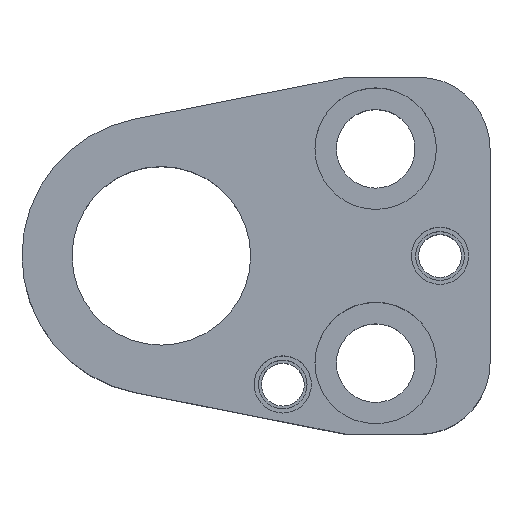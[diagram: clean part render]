
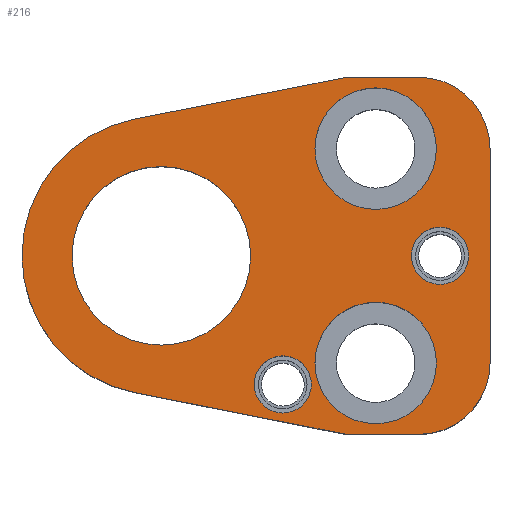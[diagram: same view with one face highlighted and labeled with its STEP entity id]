
A CAD part, top view. The second image highlights one B-rep face of the part: STEP entity #216.
In plain terms, the highlighted planar face has unit normal (0, 0, 1).
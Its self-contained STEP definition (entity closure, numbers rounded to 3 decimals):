
#104=FACE_BOUND('',#309,.T.);
#105=FACE_BOUND('',#310,.T.);
#106=FACE_BOUND('',#311,.T.);
#107=FACE_BOUND('',#312,.T.);
#108=FACE_BOUND('',#313,.T.);
#109=FACE_BOUND('',#314,.T.);
#148=CIRCLE('',#832,10.);
#150=CIRCLE('',#836,10.);
#160=CIRCLE('',#852,8.5);
#162=CIRCLE('',#855,8.5);
#164=CIRCLE('',#859,8.5);
#166=CIRCLE('',#862,8.5);
#168=CIRCLE('',#866,19.5);
#169=CIRCLE('',#867,4.);
#170=CIRCLE('',#868,4.);
#171=CIRCLE('',#869,4.);
#172=CIRCLE('',#870,4.);
#173=CIRCLE('',#871,12.5);
#174=CIRCLE('',#872,12.5);
#216=ADVANCED_FACE('',(#104,#105,#106,#107,#108,#109),#248,.T.);
#248=PLANE('',#873);
#309=EDGE_LOOP('',(#409,#410,#411,#412,#413,#414,#415,#416));
#310=EDGE_LOOP('',(#417,#418));
#311=EDGE_LOOP('',(#419,#420));
#312=EDGE_LOOP('',(#421,#422));
#313=EDGE_LOOP('',(#423,#424));
#314=EDGE_LOOP('',(#425,#426));
#409=ORIENTED_EDGE('',*,*,#666,.T.);
#410=ORIENTED_EDGE('',*,*,#627,.T.);
#411=ORIENTED_EDGE('',*,*,#631,.T.);
#412=ORIENTED_EDGE('',*,*,#634,.T.);
#413=ORIENTED_EDGE('',*,*,#637,.T.);
#414=ORIENTED_EDGE('',*,*,#640,.T.);
#415=ORIENTED_EDGE('',*,*,#667,.T.);
#416=ORIENTED_EDGE('',*,*,#668,.T.);
#417=ORIENTED_EDGE('',*,*,#669,.F.);
#418=ORIENTED_EDGE('',*,*,#670,.F.);
#419=ORIENTED_EDGE('',*,*,#671,.F.);
#420=ORIENTED_EDGE('',*,*,#672,.F.);
#421=ORIENTED_EDGE('',*,*,#664,.F.);
#422=ORIENTED_EDGE('',*,*,#660,.F.);
#423=ORIENTED_EDGE('',*,*,#658,.F.);
#424=ORIENTED_EDGE('',*,*,#654,.F.);
#425=ORIENTED_EDGE('',*,*,#673,.T.);
#426=ORIENTED_EDGE('',*,*,#674,.T.);
#558=VERTEX_POINT('',#1171);
#559=VERTEX_POINT('',#1173);
#562=VERTEX_POINT('',#1180);
#564=VERTEX_POINT('',#1186);
#566=VERTEX_POINT('',#1192);
#568=VERTEX_POINT('',#1198);
#577=VERTEX_POINT('',#1227);
#578=VERTEX_POINT('',#1228);
#581=VERTEX_POINT('',#1240);
#582=VERTEX_POINT('',#1241);
#585=VERTEX_POINT('',#1253);
#586=VERTEX_POINT('',#1255);
#587=VERTEX_POINT('',#1258);
#588=VERTEX_POINT('',#1259);
#589=VERTEX_POINT('',#1262);
#590=VERTEX_POINT('',#1263);
#591=VERTEX_POINT('',#1266);
#592=VERTEX_POINT('',#1267);
#627=EDGE_CURVE('',#559,#558,#731,.T.);
#631=EDGE_CURVE('',#558,#562,#148,.T.);
#634=EDGE_CURVE('',#562,#564,#736,.T.);
#637=EDGE_CURVE('',#564,#566,#150,.T.);
#640=EDGE_CURVE('',#566,#568,#740,.T.);
#654=EDGE_CURVE('',#577,#578,#160,.T.);
#658=EDGE_CURVE('',#578,#577,#162,.T.);
#660=EDGE_CURVE('',#581,#582,#164,.T.);
#664=EDGE_CURVE('',#582,#581,#166,.T.);
#666=EDGE_CURVE('',#585,#559,#750,.T.);
#667=EDGE_CURVE('',#568,#586,#751,.T.);
#668=EDGE_CURVE('',#586,#585,#168,.T.);
#669=EDGE_CURVE('',#587,#588,#169,.T.);
#670=EDGE_CURVE('',#588,#587,#170,.T.);
#671=EDGE_CURVE('',#589,#590,#171,.T.);
#672=EDGE_CURVE('',#590,#589,#172,.T.);
#673=EDGE_CURVE('',#591,#592,#173,.T.);
#674=EDGE_CURVE('',#592,#591,#174,.T.);
#731=LINE('',#1172,#781);
#736=LINE('',#1187,#786);
#740=LINE('',#1199,#790);
#750=LINE('',#1252,#800);
#751=LINE('',#1254,#801);
#781=VECTOR('',#929,1.);
#786=VECTOR('',#942,1.);
#790=VECTOR('',#954,1.);
#800=VECTOR('',#1018,1.);
#801=VECTOR('',#1019,1.);
#832=AXIS2_PLACEMENT_3D('',#1181,#935,#936);
#836=AXIS2_PLACEMENT_3D('',#1193,#947,#948);
#852=AXIS2_PLACEMENT_3D('',#1226,#986,#987);
#855=AXIS2_PLACEMENT_3D('',#1235,#994,#995);
#859=AXIS2_PLACEMENT_3D('',#1239,#1002,#1003);
#862=AXIS2_PLACEMENT_3D('',#1248,#1010,#1011);
#866=AXIS2_PLACEMENT_3D('',#1256,#1020,#1021);
#867=AXIS2_PLACEMENT_3D('',#1257,#1022,#1023);
#868=AXIS2_PLACEMENT_3D('',#1260,#1024,#1025);
#869=AXIS2_PLACEMENT_3D('',#1261,#1026,#1027);
#870=AXIS2_PLACEMENT_3D('',#1264,#1028,#1029);
#871=AXIS2_PLACEMENT_3D('',#1265,#1030,#1031);
#872=AXIS2_PLACEMENT_3D('',#1268,#1032,#1033);
#873=AXIS2_PLACEMENT_3D('',#1269,#1034,#1035);
#929=DIRECTION('',(1.,0.,0.));
#935=DIRECTION('',(0.,0.,1.));
#936=DIRECTION('',(-0.707,0.707,0.));
#942=DIRECTION('',(0.,1.,0.));
#947=DIRECTION('',(0.,0.,1.));
#948=DIRECTION('',(-0.707,-0.707,0.));
#954=DIRECTION('',(-1.,0.,0.));
#986=DIRECTION('',(0.,0.,1.));
#987=DIRECTION('',(-1.,0.,0.));
#994=DIRECTION('',(0.,0.,1.));
#995=DIRECTION('',(1.,0.,0.));
#1002=DIRECTION('',(0.,0.,1.));
#1003=DIRECTION('',(-1.,0.,0.));
#1010=DIRECTION('',(0.,0.,1.));
#1011=DIRECTION('',(1.,0.,0.));
#1018=DIRECTION('',(0.981,-0.193,0.));
#1019=DIRECTION('',(-0.981,-0.193,0.));
#1020=DIRECTION('',(0.,0.,1.));
#1021=DIRECTION('',(1.,0.,0.));
#1022=DIRECTION('',(0.,0.,1.));
#1023=DIRECTION('',(1.,0.,0.));
#1024=DIRECTION('',(0.,0.,1.));
#1025=DIRECTION('',(-1.,0.,0.));
#1026=DIRECTION('',(0.,0.,1.));
#1027=DIRECTION('',(1.,0.,0.));
#1028=DIRECTION('',(0.,0.,1.));
#1029=DIRECTION('',(-1.,0.,0.));
#1030=DIRECTION('',(0.,0.,-1.));
#1031=DIRECTION('',(-1.,0.,0.));
#1032=DIRECTION('',(0.,0.,-1.));
#1033=DIRECTION('',(1.,0.,0.));
#1034=DIRECTION('',(0.,0.,1.));
#1035=DIRECTION('',(0.981,-0.193,0.));
#1171=CARTESIAN_POINT('',(36.,-25.,30.));
#1172=CARTESIAN_POINT('',(26.,-25.,30.));
#1173=CARTESIAN_POINT('',(26.,-25.,30.));
#1180=CARTESIAN_POINT('',(46.,-15.,30.));
#1181=CARTESIAN_POINT('',(36.,-15.,30.));
#1186=CARTESIAN_POINT('',(46.,15.,30.));
#1187=CARTESIAN_POINT('',(46.,15.,30.));
#1192=CARTESIAN_POINT('',(36.,25.,30.));
#1193=CARTESIAN_POINT('',(36.,15.,30.));
#1198=CARTESIAN_POINT('',(26.,25.,30.));
#1199=CARTESIAN_POINT('',(26.,25.,30.));
#1226=CARTESIAN_POINT('',(30.,-15.,30.));
#1227=CARTESIAN_POINT('',(30.,-23.5,30.));
#1228=CARTESIAN_POINT('',(30.,-6.5,30.));
#1235=CARTESIAN_POINT('',(30.,-15.,30.));
#1239=CARTESIAN_POINT('',(30.,15.,30.));
#1240=CARTESIAN_POINT('',(30.,6.5,30.));
#1241=CARTESIAN_POINT('',(30.,23.5,30.));
#1248=CARTESIAN_POINT('',(30.,15.,30.));
#1252=CARTESIAN_POINT('',(26.,-25.,30.));
#1253=CARTESIAN_POINT('',(-3.771,-19.132,30.));
#1254=CARTESIAN_POINT('',(26.,25.,30.));
#1255=CARTESIAN_POINT('',(-3.771,19.132,30.));
#1256=CARTESIAN_POINT('',(0.,0.,30.));
#1257=CARTESIAN_POINT('',(39.,0.,30.));
#1258=CARTESIAN_POINT('',(39.,4.,30.));
#1259=CARTESIAN_POINT('',(39.,-4.,30.));
#1260=CARTESIAN_POINT('',(39.,0.,30.));
#1261=CARTESIAN_POINT('',(17.,-18.,30.));
#1262=CARTESIAN_POINT('',(17.,-14.,30.));
#1263=CARTESIAN_POINT('',(17.,-22.,30.));
#1264=CARTESIAN_POINT('',(17.,-18.,30.));
#1265=CARTESIAN_POINT('',(0.,0.,30.));
#1266=CARTESIAN_POINT('',(0.,12.5,30.));
#1267=CARTESIAN_POINT('',(0.,-12.5,30.));
#1268=CARTESIAN_POINT('',(0.,0.,30.));
#1269=CARTESIAN_POINT('',(-3.771,-19.132,30.));
